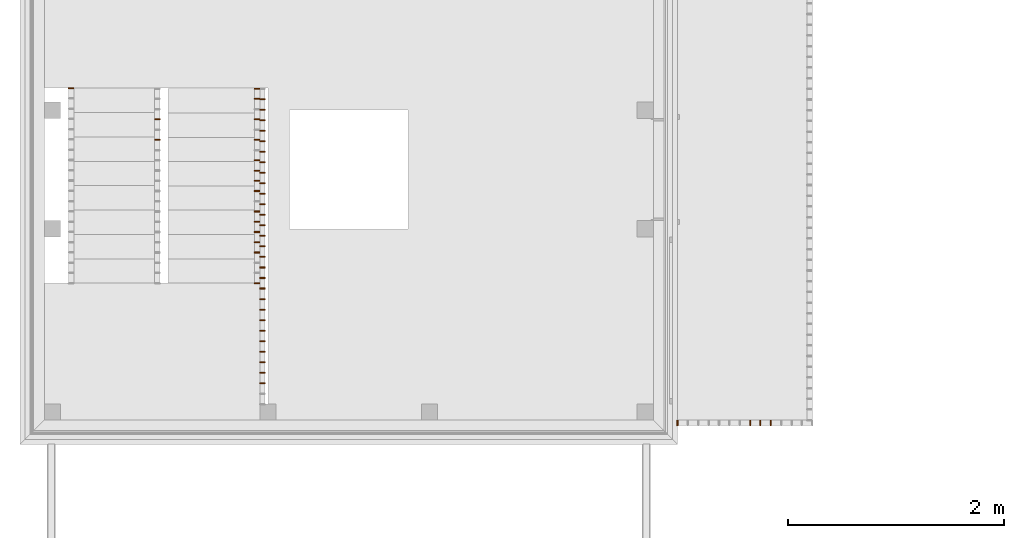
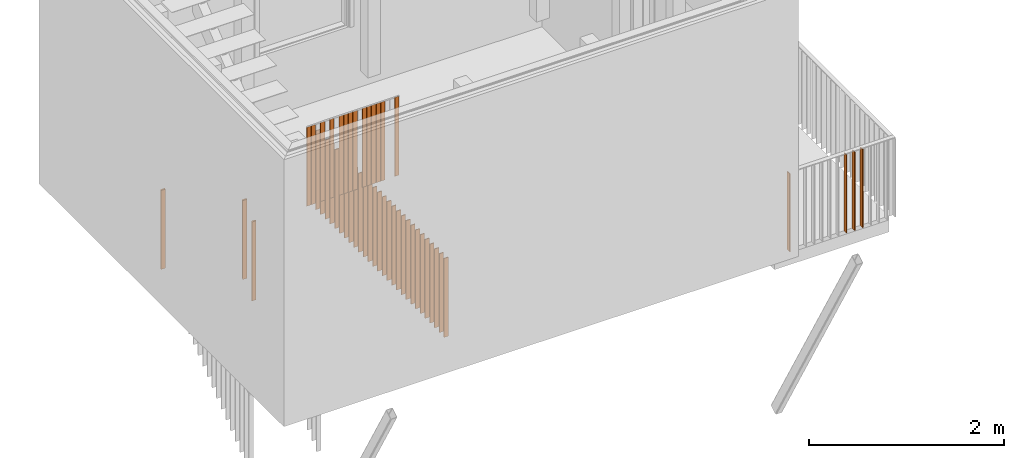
# One storey, part 78 of 100: 49 proxies, 5 elements without a shape of their own.
"""IFC2X3 building model written with IfcOpenShell, lengths in millimetres."""

from ifc_helpers import new_model, entity, si_unit, converted_unit, derived_unit, money_unit, direction, frame, origin_with_axes, place, context, subcontext, project, spatial, faceted_brep, source, transform, mapped, material, type_object, element, aggregate, save


model = new_model("IFC2X3")

# Units and contexts
model_context = context("Model", 3, precision=0.01, world=origin_with_axes(), true_north=direction((0.0, 1.0)))
body_context = subcontext(model_context, "Body", "Model", "MODEL_VIEW")
ifc_project = project(units=[si_unit("LENGTHUNIT", "METRE", prefix="MILLI"), si_unit("AREAUNIT", "SQUARE_METRE"), si_unit("VOLUMEUNIT", "CUBIC_METRE"), converted_unit("PLANEANGLEUNIT", "DEGREE", entity("IfcPlaneAngleMeasure", 0.0174532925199), si_unit("PLANEANGLEUNIT", "RADIAN"), dimensions=[0, 0, 0, 0, 0, 0, 0]), si_unit("SOLIDANGLEUNIT", "STERADIAN"), money_unit("EUR"), converted_unit("TIMEUNIT", "Year", entity("IfcTimeMeasure", 31556926.0), si_unit("TIMEUNIT", "SECOND"), dimensions=[0, 0, 1, 0, 0, 0, 0]), si_unit("MASSUNIT", "GRAM", prefix="KILO"), si_unit("THERMODYNAMICTEMPERATUREUNIT", "DEGREE_CELSIUS"), si_unit("LUMINOUSINTENSITYUNIT", "LUMEN"), si_unit("ENERGYUNIT", "JOULE", prefix="MEGA"), derived_unit("THERMALCONDUCTANCEUNIT", [(si_unit("POWERUNIT", "WATT"), 1), (si_unit("LENGTHUNIT", "METRE"), -1), (si_unit("THERMODYNAMICTEMPERATUREUNIT", "KELVIN"), -1)]), derived_unit("SPECIFICHEATCAPACITYUNIT", [(si_unit("ENERGYUNIT", "JOULE"), 1), (si_unit("MASSUNIT", "GRAM", prefix="KILO"), -1), (si_unit("THERMODYNAMICTEMPERATUREUNIT", "KELVIN"), -1)]), derived_unit("MASSDENSITYUNIT", [(si_unit("MASSUNIT", "GRAM", prefix="KILO"), 1), (si_unit("VOLUMEUNIT", "CUBIC_METRE"), -1)])], contexts=[model_context])

# Site, building, storey
site_placement = place(None, origin_with_axes())
site = spatial("IfcSite", under=ifc_project, at=site_placement, Name="Politse- ja Piirivalveameti ning Päästeameti ühishoone", CompositionType="ELEMENT")
building_placement = place(site_placement, origin_with_axes())
building = spatial("IfcBuilding", under=site, at=building_placement, Name="Politse- ja Piirivalveameti ning Päästeameti ühishoone", CompositionType="ELEMENT")
storey_placement = place(building_placement, frame((0.0, 0.0, 3800.0), z_axis=(0.0, 0.0, 1.0), x_axis=(1.0, 0.0, 0.0)))
storey = spatial("IfcBuildingStorey", under=building, at=storey_placement, Name="Teine korrus", CompositionType="ELEMENT", Elevation=3800.0)

# Railing, proxy
railing_type = type_object("IfcRailingType", Name="Railing Type", PredefinedType="NOTDEFINED")
railing_1_placement = place(storey_placement, frame((-12181.6987719, 2843.99975677, -499.999970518), z_axis=(0.0, 0.0, 1.0), x_axis=(1.0, 0.0, 0.0)))
railing_1 = element("IfcRailing", 1, at=railing_1_placement, inside=storey, type_object=railing_type, Name="PIIRE 2", PredefinedType="NOTDEFINED")
ifc_material = material(Name="Teras - Konstruktsioon")
building_element_proxy_type = type_object("IfcBuildingElementProxyType", Name="IfcBuildingElementProxy", PredefinedType="NOTDEFINED")
shared_shape_1 = source(origin_with_axes(), body_context, "Body", "Brep", [
    faceted_brep([(25.0, 5.0, 4.06243551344), (-25.0, 5.0, 4.06243551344), (-25.0, 5.0, 994.062448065), (25.0, 5.0, 994.062448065), (25.0, -5.0, -4.06243551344), (-25.0, -5.0, -4.06243551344), (-25.0, -5.0, 985.937577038), (25.0, -5.0, 985.937577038)], [[[0, 1, 2, 3]], [[0, 4, 5, 1]], [[1, 5, 6, 2]], [[3, 2, 6, 7]], [[4, 0, 3, 7]], [[5, 4, 7, 6]]]),
])
proxy_1_placement = place(railing_1_placement, frame((-25.0, -1173.45847795, 1080.70174183), z_axis=(0.0, 0.0, 1.0), x_axis=(1.0, 0.0, 0.0)))
proxy_1 = element("IfcBuildingElementProxy", 2, at=proxy_1_placement, type_object=building_element_proxy_type, material=ifc_material, Name="BALUSTER - 001", context=body_context, shape_type="MappedRepresentation", body=[
    mapped(shared_shape_1, transform((0.0, 0.0, 0.0), x_axis=(-1.0, 0.0, 0.0), y_axis=(0.0, -1.0, 0.0), z_axis=(0.0, 0.0, 1.0))),
])

# Railing, proxies
railing_2_placement = place(storey_placement, frame((-7483.77309461, -75.0, -549.999987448), z_axis=(0.0, 0.0, 1.0), x_axis=(0.0, 1.0, 0.0)))
railing_2 = element("IfcRailing", 3, at=railing_2_placement, inside=storey, type_object=railing_type, Name="PIIRE 2", PredefinedType="NOTDEFINED")
shared_shape_2 = source(origin_with_axes(), body_context, "Body", "Brep", [
    faceted_brep([(25.0, 5.0, 0.0), (-25.0, 5.0, 0.0), (-25.0, 5.0, 980.0), (25.0, 5.0, 980.0), (25.0, -5.0, 0.0), (-25.0, -5.0, 0.0), (-25.0, -5.0, 980.0), (25.0, -5.0, 980.0)], [[[0, 1, 2, 3]], [[0, 4, 5, 1]], [[1, 5, 6, 2]], [[3, 2, 6, 7]], [[4, 0, 3, 7]], [[5, 4, 7, 6]]]),
])
proxy_2_placement = place(railing_2_placement, frame((-25.0, 822.925677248, 0.0), z_axis=(0.0, 0.0, 1.0), x_axis=(0.0, -1.0, 0.0)))
proxy_2 = element("IfcBuildingElementProxy", 4, at=proxy_2_placement, type_object=building_element_proxy_type, material=ifc_material, Name="PIIRDE POST - 001", context=body_context, shape_type="MappedRepresentation", body=[
    mapped(shared_shape_2, transform((0.0, 0.0, 0.0), x_axis=(0.0, 1.0, 0.0), y_axis=(-1.0, 0.0, 0.0), z_axis=(0.0, 0.0, 1.0))),
])
shared_shape_3 = source(origin_with_axes(), body_context, "Body", "Brep", [
    faceted_brep([(25.0, 5.0, 0.0), (-25.0, 5.0, 0.0), (-25.0, 5.0, 980.000012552), (25.0, 5.0, 980.000012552), (25.0, -5.0, 0.0), (-25.0, -5.0, 0.0), (-25.0, -5.0, 980.000012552), (25.0, -5.0, 980.000012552)], [[[0, 1, 2, 3]], [[0, 4, 5, 1]], [[1, 5, 6, 2]], [[3, 2, 6, 7]], [[4, 0, 3, 7]], [[5, 4, 7, 6]]]),
])
proxy_3_placement = place(railing_2_placement, frame((-25.0, -42.4589381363, -1.25517001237e-05), z_axis=(0.0, 0.0, 1.0), x_axis=(0.0, -1.0, 0.0)))
proxy_3 = element("IfcBuildingElementProxy", 5, at=proxy_3_placement, type_object=building_element_proxy_type, material=ifc_material, Name="BALUSTER - 001", context=body_context, shape_type="MappedRepresentation", body=[
    mapped(shared_shape_3, transform((0.0, 0.0, 0.0), x_axis=(0.0, 1.0, 0.0), y_axis=(-1.0, 0.0, 0.0), z_axis=(0.0, 0.0, 1.0))),
])
proxy_4_placement = place(railing_2_placement, frame((-25.0, 53.6949080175, -1.25517001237e-05), z_axis=(0.0, 0.0, 1.0), x_axis=(0.0, -1.0, 0.0)))
proxy_4 = element("IfcBuildingElementProxy", 6, at=proxy_4_placement, type_object=building_element_proxy_type, material=ifc_material, Name="BALUSTER - 001", context=body_context, shape_type="MappedRepresentation", body=[
    mapped(shared_shape_3, transform((0.0, 0.0, 0.0), x_axis=(0.0, 1.0, 0.0), y_axis=(-1.0, 0.0, 0.0), z_axis=(0.0, 0.0, 1.0))),
])
proxy_5_placement = place(railing_2_placement, frame((-25.0, 149.848754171, -1.25517001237e-05), z_axis=(0.0, 0.0, 1.0), x_axis=(0.0, -1.0, 0.0)))
proxy_5 = element("IfcBuildingElementProxy", 7, at=proxy_5_placement, type_object=building_element_proxy_type, material=ifc_material, Name="BALUSTER - 001", context=body_context, shape_type="MappedRepresentation", body=[
    mapped(shared_shape_3, transform((0.0, 0.0, 0.0), x_axis=(0.0, 1.0, 0.0), y_axis=(-1.0, 0.0, 0.0), z_axis=(0.0, 0.0, 1.0))),
])
aggregate(railing_2, [proxy_2, proxy_3, proxy_4, proxy_5])

railing_3_placement = place(storey_placement, frame((-12181.9616228, 2843.99975677, -499.999968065), z_axis=(0.0, 0.0, 1.0), x_axis=(1.0, 0.0, 0.0)))
railing_3 = element("IfcRailing", 8, at=railing_3_placement, inside=storey, type_object=railing_type, Name="PIIRE 2", PredefinedType="NOTDEFINED")
shared_shape_4 = source(origin_with_axes(), body_context, "Body", "Brep", [
    faceted_brep([(25.0, 5.0, 0.0), (-25.0, 5.0, 0.0), (-25.0, 5.0, 990.000012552), (25.0, 5.0, 990.000012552), (25.0, -5.0, 0.0), (-25.0, -5.0, 0.0), (-25.0, -5.0, 990.000012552), (25.0, -5.0, 990.000012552)], [[[0, 1, 2, 3]], [[0, 4, 5, 1]], [[1, 5, 6, 2]], [[3, 2, 6, 7]], [[4, 0, 3, 7]], [[5, 4, 7, 6]]]),
])
proxy_6_placement = place(railing_3_placement, frame((25.0, 59.3023924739, -1.25516996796e-05), z_axis=(0.0, 0.0, 1.0), x_axis=(1.0, 0.0, 0.0)))
proxy_6 = element("IfcBuildingElementProxy", 9, at=proxy_6_placement, type_object=building_element_proxy_type, material=ifc_material, Name="BALUSTER - 001", context=body_context, shape_type="MappedRepresentation", body=[
    mapped(shared_shape_4, transform((0.0, 0.0, 0.0), x_axis=(-1.0, 0.0, 0.0), y_axis=(0.0, -1.0, 0.0), z_axis=(0.0, 0.0, 1.0))),
])
proxy_7_placement = place(railing_3_placement, frame((25.0, -38.3226422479, -1.25516996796e-05), z_axis=(0.0, 0.0, 1.0), x_axis=(1.0, 0.0, 0.0)))
proxy_7 = element("IfcBuildingElementProxy", 10, at=proxy_7_placement, type_object=building_element_proxy_type, material=ifc_material, Name="BALUSTER - 001", context=body_context, shape_type="MappedRepresentation", body=[
    mapped(shared_shape_4, transform((0.0, 0.0, 0.0), x_axis=(-1.0, 0.0, 0.0), y_axis=(0.0, -1.0, 0.0), z_axis=(0.0, 0.0, 1.0))),
])
proxy_8_placement = place(railing_3_placement, frame((25.0, -135.94767697, -1.25516996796e-05), z_axis=(0.0, 0.0, 1.0), x_axis=(1.0, 0.0, 0.0)))
proxy_8 = element("IfcBuildingElementProxy", 11, at=proxy_8_placement, type_object=building_element_proxy_type, material=ifc_material, Name="BALUSTER - 001", context=body_context, shape_type="MappedRepresentation", body=[
    mapped(shared_shape_4, transform((0.0, 0.0, 0.0), x_axis=(-1.0, 0.0, 0.0), y_axis=(0.0, -1.0, 0.0), z_axis=(0.0, 0.0, 1.0))),
])
proxy_9_placement = place(railing_3_placement, frame((25.0, -233.572711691, -1.25516996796e-05), z_axis=(0.0, 0.0, 1.0), x_axis=(1.0, 0.0, 0.0)))
proxy_9 = element("IfcBuildingElementProxy", 12, at=proxy_9_placement, type_object=building_element_proxy_type, material=ifc_material, Name="BALUSTER - 001", context=body_context, shape_type="MappedRepresentation", body=[
    mapped(shared_shape_4, transform((0.0, 0.0, 0.0), x_axis=(-1.0, 0.0, 0.0), y_axis=(0.0, -1.0, 0.0), z_axis=(0.0, 0.0, 1.0))),
])
proxy_10_placement = place(railing_3_placement, frame((25.0, -331.197746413, -1.25516996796e-05), z_axis=(0.0, 0.0, 1.0), x_axis=(1.0, 0.0, 0.0)))
proxy_10 = element("IfcBuildingElementProxy", 13, at=proxy_10_placement, type_object=building_element_proxy_type, material=ifc_material, Name="BALUSTER - 001", context=body_context, shape_type="MappedRepresentation", body=[
    mapped(shared_shape_4, transform((0.0, 0.0, 0.0), x_axis=(-1.0, 0.0, 0.0), y_axis=(0.0, -1.0, 0.0), z_axis=(0.0, 0.0, 1.0))),
])
proxy_11_placement = place(railing_3_placement, frame((25.0, -428.822781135, -1.25516996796e-05), z_axis=(0.0, 0.0, 1.0), x_axis=(1.0, 0.0, 0.0)))
proxy_11 = element("IfcBuildingElementProxy", 14, at=proxy_11_placement, type_object=building_element_proxy_type, material=ifc_material, Name="BALUSTER - 001", context=body_context, shape_type="MappedRepresentation", body=[
    mapped(shared_shape_4, transform((0.0, 0.0, 0.0), x_axis=(-1.0, 0.0, 0.0), y_axis=(0.0, -1.0, 0.0), z_axis=(0.0, 0.0, 1.0))),
])
proxy_12_placement = place(railing_3_placement, frame((25.0, -526.447815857, -1.25516996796e-05), z_axis=(0.0, 0.0, 1.0), x_axis=(1.0, 0.0, 0.0)))
proxy_12 = element("IfcBuildingElementProxy", 15, at=proxy_12_placement, type_object=building_element_proxy_type, material=ifc_material, Name="BALUSTER - 001", context=body_context, shape_type="MappedRepresentation", body=[
    mapped(shared_shape_4, transform((0.0, 0.0, 0.0), x_axis=(-1.0, 0.0, 0.0), y_axis=(0.0, -1.0, 0.0), z_axis=(0.0, 0.0, 1.0))),
])
proxy_13_placement = place(railing_3_placement, frame((25.0, -624.072850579, -1.25516996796e-05), z_axis=(0.0, 0.0, 1.0), x_axis=(1.0, 0.0, 0.0)))
proxy_13 = element("IfcBuildingElementProxy", 16, at=proxy_13_placement, type_object=building_element_proxy_type, material=ifc_material, Name="BALUSTER - 001", context=body_context, shape_type="MappedRepresentation", body=[
    mapped(shared_shape_4, transform((0.0, 0.0, 0.0), x_axis=(-1.0, 0.0, 0.0), y_axis=(0.0, -1.0, 0.0), z_axis=(0.0, 0.0, 1.0))),
])
proxy_14_placement = place(railing_3_placement, frame((25.0, -721.6978853, -1.25516996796e-05), z_axis=(0.0, 0.0, 1.0), x_axis=(1.0, 0.0, 0.0)))
proxy_14 = element("IfcBuildingElementProxy", 17, at=proxy_14_placement, type_object=building_element_proxy_type, material=ifc_material, Name="BALUSTER - 001", context=body_context, shape_type="MappedRepresentation", body=[
    mapped(shared_shape_4, transform((0.0, 0.0, 0.0), x_axis=(-1.0, 0.0, 0.0), y_axis=(0.0, -1.0, 0.0), z_axis=(0.0, 0.0, 1.0))),
])
proxy_15_placement = place(railing_3_placement, frame((25.0, -819.322920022, -1.25516996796e-05), z_axis=(0.0, 0.0, 1.0), x_axis=(1.0, 0.0, 0.0)))
proxy_15 = element("IfcBuildingElementProxy", 18, at=proxy_15_placement, type_object=building_element_proxy_type, material=ifc_material, Name="BALUSTER - 001", context=body_context, shape_type="MappedRepresentation", body=[
    mapped(shared_shape_4, transform((0.0, 0.0, 0.0), x_axis=(-1.0, 0.0, 0.0), y_axis=(0.0, -1.0, 0.0), z_axis=(0.0, 0.0, 1.0))),
])
proxy_16_placement = place(railing_3_placement, frame((25.0, -916.947954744, -1.25516996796e-05), z_axis=(0.0, 0.0, 1.0), x_axis=(1.0, 0.0, 0.0)))
proxy_16 = element("IfcBuildingElementProxy", 19, at=proxy_16_placement, type_object=building_element_proxy_type, material=ifc_material, Name="BALUSTER - 001", context=body_context, shape_type="MappedRepresentation", body=[
    mapped(shared_shape_4, transform((0.0, 0.0, 0.0), x_axis=(-1.0, 0.0, 0.0), y_axis=(0.0, -1.0, 0.0), z_axis=(0.0, 0.0, 1.0))),
])
proxy_17_placement = place(railing_3_placement, frame((25.0, -1014.57298947, -1.25516996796e-05), z_axis=(0.0, 0.0, 1.0), x_axis=(1.0, 0.0, 0.0)))
proxy_17 = element("IfcBuildingElementProxy", 20, at=proxy_17_placement, type_object=building_element_proxy_type, material=ifc_material, Name="BALUSTER - 001", context=body_context, shape_type="MappedRepresentation", body=[
    mapped(shared_shape_4, transform((0.0, 0.0, 0.0), x_axis=(-1.0, 0.0, 0.0), y_axis=(0.0, -1.0, 0.0), z_axis=(0.0, 0.0, 1.0))),
])
proxy_18_placement = place(railing_3_placement, frame((25.0, -1112.19802419, -1.25516996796e-05), z_axis=(0.0, 0.0, 1.0), x_axis=(1.0, 0.0, 0.0)))
proxy_18 = element("IfcBuildingElementProxy", 21, at=proxy_18_placement, type_object=building_element_proxy_type, material=ifc_material, Name="BALUSTER - 001", context=body_context, shape_type="MappedRepresentation", body=[
    mapped(shared_shape_4, transform((0.0, 0.0, 0.0), x_axis=(-1.0, 0.0, 0.0), y_axis=(0.0, -1.0, 0.0), z_axis=(0.0, 0.0, 1.0))),
])
proxy_19_placement = place(railing_3_placement, frame((25.0, -1209.82305891, -1.25516996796e-05), z_axis=(0.0, 0.0, 1.0), x_axis=(1.0, 0.0, 0.0)))
proxy_19 = element("IfcBuildingElementProxy", 22, at=proxy_19_placement, type_object=building_element_proxy_type, material=ifc_material, Name="BALUSTER - 001", context=body_context, shape_type="MappedRepresentation", body=[
    mapped(shared_shape_4, transform((0.0, 0.0, 0.0), x_axis=(-1.0, 0.0, 0.0), y_axis=(0.0, -1.0, 0.0), z_axis=(0.0, 0.0, 1.0))),
])
proxy_20_placement = place(railing_3_placement, frame((25.0, -1307.44809363, -1.25516996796e-05), z_axis=(0.0, 0.0, 1.0), x_axis=(1.0, 0.0, 0.0)))
proxy_20 = element("IfcBuildingElementProxy", 23, at=proxy_20_placement, type_object=building_element_proxy_type, material=ifc_material, Name="BALUSTER - 001", context=body_context, shape_type="MappedRepresentation", body=[
    mapped(shared_shape_4, transform((0.0, 0.0, 0.0), x_axis=(-1.0, 0.0, 0.0), y_axis=(0.0, -1.0, 0.0), z_axis=(0.0, 0.0, 1.0))),
])
proxy_21_placement = place(railing_3_placement, frame((25.0, -1405.07312835, -1.25516996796e-05), z_axis=(0.0, 0.0, 1.0), x_axis=(1.0, 0.0, 0.0)))
proxy_21 = element("IfcBuildingElementProxy", 24, at=proxy_21_placement, type_object=building_element_proxy_type, material=ifc_material, Name="BALUSTER - 001", context=body_context, shape_type="MappedRepresentation", body=[
    mapped(shared_shape_4, transform((0.0, 0.0, 0.0), x_axis=(-1.0, 0.0, 0.0), y_axis=(0.0, -1.0, 0.0), z_axis=(0.0, 0.0, 1.0))),
])
proxy_22_placement = place(railing_3_placement, frame((25.0, -1502.69816307, -1.25516996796e-05), z_axis=(0.0, 0.0, 1.0), x_axis=(1.0, 0.0, 0.0)))
proxy_22 = element("IfcBuildingElementProxy", 25, at=proxy_22_placement, type_object=building_element_proxy_type, material=ifc_material, Name="BALUSTER - 001", context=body_context, shape_type="MappedRepresentation", body=[
    mapped(shared_shape_4, transform((0.0, 0.0, 0.0), x_axis=(-1.0, 0.0, 0.0), y_axis=(0.0, -1.0, 0.0), z_axis=(0.0, 0.0, 1.0))),
])
proxy_23_placement = place(railing_3_placement, frame((25.0, -1600.3231978, -1.25516996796e-05), z_axis=(0.0, 0.0, 1.0), x_axis=(1.0, 0.0, 0.0)))
proxy_23 = element("IfcBuildingElementProxy", 26, at=proxy_23_placement, type_object=building_element_proxy_type, material=ifc_material, Name="BALUSTER - 001", context=body_context, shape_type="MappedRepresentation", body=[
    mapped(shared_shape_4, transform((0.0, 0.0, 0.0), x_axis=(-1.0, 0.0, 0.0), y_axis=(0.0, -1.0, 0.0), z_axis=(0.0, 0.0, 1.0))),
])
proxy_24_placement = place(railing_3_placement, frame((25.0, -1697.94823252, -1.25516996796e-05), z_axis=(0.0, 0.0, 1.0), x_axis=(1.0, 0.0, 0.0)))
proxy_24 = element("IfcBuildingElementProxy", 27, at=proxy_24_placement, type_object=building_element_proxy_type, material=ifc_material, Name="BALUSTER - 001", context=body_context, shape_type="MappedRepresentation", body=[
    mapped(shared_shape_4, transform((0.0, 0.0, 0.0), x_axis=(-1.0, 0.0, 0.0), y_axis=(0.0, -1.0, 0.0), z_axis=(0.0, 0.0, 1.0))),
])
proxy_25_placement = place(railing_3_placement, frame((25.0, -1795.57326724, -1.25516996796e-05), z_axis=(0.0, 0.0, 1.0), x_axis=(1.0, 0.0, 0.0)))
proxy_25 = element("IfcBuildingElementProxy", 28, at=proxy_25_placement, type_object=building_element_proxy_type, material=ifc_material, Name="BALUSTER - 001", context=body_context, shape_type="MappedRepresentation", body=[
    mapped(shared_shape_4, transform((0.0, 0.0, 0.0), x_axis=(-1.0, 0.0, 0.0), y_axis=(0.0, -1.0, 0.0), z_axis=(0.0, 0.0, 1.0))),
])
proxy_26_placement = place(railing_3_placement, frame((25.0, -1893.19830196, -1.25516996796e-05), z_axis=(0.0, 0.0, 1.0), x_axis=(1.0, 0.0, 0.0)))
proxy_26 = element("IfcBuildingElementProxy", 29, at=proxy_26_placement, type_object=building_element_proxy_type, material=ifc_material, Name="BALUSTER - 001", context=body_context, shape_type="MappedRepresentation", body=[
    mapped(shared_shape_4, transform((0.0, 0.0, 0.0), x_axis=(-1.0, 0.0, 0.0), y_axis=(0.0, -1.0, 0.0), z_axis=(0.0, 0.0, 1.0))),
])
proxy_27_placement = place(railing_3_placement, frame((25.0, -1990.82333668, -1.25516996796e-05), z_axis=(0.0, 0.0, 1.0), x_axis=(1.0, 0.0, 0.0)))
proxy_27 = element("IfcBuildingElementProxy", 30, at=proxy_27_placement, type_object=building_element_proxy_type, material=ifc_material, Name="BALUSTER - 001", context=body_context, shape_type="MappedRepresentation", body=[
    mapped(shared_shape_4, transform((0.0, 0.0, 0.0), x_axis=(-1.0, 0.0, 0.0), y_axis=(0.0, -1.0, 0.0), z_axis=(0.0, 0.0, 1.0))),
])
proxy_28_placement = place(railing_3_placement, frame((25.0, -2088.44837141, -1.25516996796e-05), z_axis=(0.0, 0.0, 1.0), x_axis=(1.0, 0.0, 0.0)))
proxy_28 = element("IfcBuildingElementProxy", 31, at=proxy_28_placement, type_object=building_element_proxy_type, material=ifc_material, Name="BALUSTER - 001", context=body_context, shape_type="MappedRepresentation", body=[
    mapped(shared_shape_4, transform((0.0, 0.0, 0.0), x_axis=(-1.0, 0.0, 0.0), y_axis=(0.0, -1.0, 0.0), z_axis=(0.0, 0.0, 1.0))),
])
proxy_29_placement = place(railing_3_placement, frame((25.0, -2186.07340613, -1.25516996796e-05), z_axis=(0.0, 0.0, 1.0), x_axis=(1.0, 0.0, 0.0)))
proxy_29 = element("IfcBuildingElementProxy", 32, at=proxy_29_placement, type_object=building_element_proxy_type, material=ifc_material, Name="BALUSTER - 001", context=body_context, shape_type="MappedRepresentation", body=[
    mapped(shared_shape_4, transform((0.0, 0.0, 0.0), x_axis=(-1.0, 0.0, 0.0), y_axis=(0.0, -1.0, 0.0), z_axis=(0.0, 0.0, 1.0))),
])
proxy_30_placement = place(railing_3_placement, frame((25.0, -2283.69844085, -1.25516996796e-05), z_axis=(0.0, 0.0, 1.0), x_axis=(1.0, 0.0, 0.0)))
proxy_30 = element("IfcBuildingElementProxy", 33, at=proxy_30_placement, type_object=building_element_proxy_type, material=ifc_material, Name="BALUSTER - 001", context=body_context, shape_type="MappedRepresentation", body=[
    mapped(shared_shape_4, transform((0.0, 0.0, 0.0), x_axis=(-1.0, 0.0, 0.0), y_axis=(0.0, -1.0, 0.0), z_axis=(0.0, 0.0, 1.0))),
])
shared_shape_5 = source(origin_with_axes(), body_context, "Body", "Brep", [
    faceted_brep([(25.0, 5.0, 0.0), (-25.0, 5.0, 0.0), (-25.0, 5.0, 990.000012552), (25.0, 5.0, 990.000012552), (25.0, -5.0, 0.0), (-25.0, -5.0, 0.0), (-25.0, -5.0, 990.000012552), (25.0, -5.0, 990.000012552)], [[[0, 1, 2, 3]], [[0, 4, 5, 1]], [[1, 5, 6, 2]], [[3, 2, 6, 7]], [[4, 0, 3, 7]], [[5, 4, 7, 6]]]),
])
proxy_31_placement = place(railing_3_placement, frame((25.0, -2381.32347557, -1.25516996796e-05), z_axis=(0.0, 0.0, 1.0), x_axis=(1.0, 0.0, 0.0)))
proxy_31 = element("IfcBuildingElementProxy", 34, at=proxy_31_placement, type_object=building_element_proxy_type, material=ifc_material, Name="BALUSTER - 001", context=body_context, shape_type="MappedRepresentation", body=[
    mapped(shared_shape_5, transform((0.0, 0.0, 0.0), x_axis=(-1.0, 0.0, 0.0), y_axis=(0.0, -1.0, 0.0), z_axis=(0.0, 0.0, 1.0))),
])
proxy_32_placement = place(railing_3_placement, frame((25.0, -2478.94851029, -1.25516996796e-05), z_axis=(0.0, 0.0, 1.0), x_axis=(1.0, 0.0, 0.0)))
proxy_32 = element("IfcBuildingElementProxy", 35, at=proxy_32_placement, type_object=building_element_proxy_type, material=ifc_material, Name="BALUSTER - 001", context=body_context, shape_type="MappedRepresentation", body=[
    mapped(shared_shape_5, transform((0.0, 0.0, 0.0), x_axis=(-1.0, 0.0, 0.0), y_axis=(0.0, -1.0, 0.0), z_axis=(0.0, 0.0, 1.0))),
])
proxy_33_placement = place(railing_3_placement, frame((25.0, -2576.57354501, -1.25516996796e-05), z_axis=(0.0, 0.0, 1.0), x_axis=(1.0, 0.0, 0.0)))
proxy_33 = element("IfcBuildingElementProxy", 36, at=proxy_33_placement, type_object=building_element_proxy_type, material=ifc_material, Name="BALUSTER - 001", context=body_context, shape_type="MappedRepresentation", body=[
    mapped(shared_shape_5, transform((0.0, 0.0, 0.0), x_axis=(-1.0, 0.0, 0.0), y_axis=(0.0, -1.0, 0.0), z_axis=(0.0, 0.0, 1.0))),
])
aggregate(railing_3, [proxy_6, proxy_7, proxy_8, proxy_9, proxy_10, proxy_11, proxy_12, proxy_13, proxy_14, proxy_15, proxy_16, proxy_17, proxy_18, proxy_19, proxy_20, proxy_21, proxy_22, proxy_23, proxy_24, proxy_25, proxy_26, proxy_27, proxy_28, proxy_29, proxy_30, proxy_31, proxy_32, proxy_33])

railing_4_placement = place(storey_placement, frame((-13107.2062017, 2701.0725728, -2150.0), z_axis=(0.0, 0.0, 1.0), x_axis=(1.0, 0.0, 0.0)))
railing_4 = element("IfcRailing", 37, at=railing_4_placement, inside=storey, type_object=railing_type, Name="PIIRE 2", PredefinedType="NOTDEFINED")
shared_shape_6 = source(origin_with_axes(), body_context, "Body", "Brep", [
    faceted_brep([(25.0, 5.0, -4.06182724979), (-25.0, 5.0, -4.06182724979), (-25.0, 5.0, 985.938185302), (25.0, 5.0, 985.938185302), (25.0, -5.0, 4.06182724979), (-25.0, -5.0, 4.06182724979), (-25.0, -5.0, 994.061839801), (25.0, -5.0, 994.061839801)], [[[0, 1, 2, 3]], [[0, 4, 5, 1]], [[1, 5, 6, 2]], [[3, 2, 6, 7]], [[4, 0, 3, 7]], [[5, 4, 7, 6]]]),
])
proxy_34_placement = place(railing_4_placement, frame((-25.0, 14.7871610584, 1235.08770675), z_axis=(0.0, 0.0, 1.0), x_axis=(1.0, 0.0, 0.0)))
proxy_34 = element("IfcBuildingElementProxy", 38, at=proxy_34_placement, type_object=building_element_proxy_type, material=ifc_material, Name="BALUSTER - 001", context=body_context, shape_type="MappedRepresentation", body=[
    mapped(shared_shape_6, transform((0.0, 0.0, 0.0), x_axis=(-1.0, 0.0, 0.0), y_axis=(0.0, -1.0, 0.0), z_axis=(0.0, 0.0, 1.0))),
])
proxy_35_placement = place(railing_4_placement, frame((-25.0, -175.257805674, 1080.70174183), z_axis=(0.0, 0.0, 1.0), x_axis=(1.0, 0.0, 0.0)))
proxy_35 = element("IfcBuildingElementProxy", 39, at=proxy_35_placement, type_object=building_element_proxy_type, material=ifc_material, Name="BALUSTER - 001", context=body_context, shape_type="MappedRepresentation", body=[
    mapped(shared_shape_6, transform((0.0, 0.0, 0.0), x_axis=(-1.0, 0.0, 0.0), y_axis=(0.0, -1.0, 0.0), z_axis=(0.0, 0.0, 1.0))),
])
aggregate(railing_4, [proxy_34, proxy_35])

# Railing, proxy
railing_5_placement = place(storey_placement, frame((-13957.0653854, 2701.0725728, -2150.0), z_axis=(0.0, 0.0, 1.0), x_axis=(1.0, 0.0, 0.0)))
railing_5 = element("IfcRailing", 40, at=railing_5_placement, inside=storey, type_object=railing_type, Name="PIIRE 2", PredefinedType="NOTDEFINED")
shared_shape_7 = source(origin_with_axes(), body_context, "Body", "Brep", [
    faceted_brep([(25.0, 5.0, -4.0522425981), (-25.0, 5.0, -4.0522425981), (-25.0, 5.0, 985.947757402), (25.0, 5.0, 985.947757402), (25.0, -5.0, 4.0522425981), (-25.0, -5.0, 4.0522425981), (-25.0, -5.0, 994.052242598), (25.0, -5.0, 994.052242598)], [[[0, 1, 2, 3]], [[0, 4, 5, 1]], [[1, 5, 6, 2]], [[3, 2, 6, 7]], [[4, 0, 3, 7]], [[5, 4, 7, 6]]]),
])
proxy_36_placement = place(railing_5_placement, frame((25.0, 304.124935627, 1466.66666667), z_axis=(0.0, 0.0, 1.0), x_axis=(1.0, 0.0, 0.0)))
proxy_36 = element("IfcBuildingElementProxy", 41, at=proxy_36_placement, type_object=building_element_proxy_type, material=ifc_material, Name="PIIRDE POST - 001", context=body_context, shape_type="MappedRepresentation", body=[
    mapped(shared_shape_7, transform((0.0, 0.0, 0.0), x_axis=(-1.0, 0.0, 0.0), y_axis=(0.0, -1.0, 0.0), z_axis=(0.0, 0.0, 1.0))),
])
aggregate(railing_5, [proxy_36])

# Proxy
shared_shape_8 = source(origin_with_axes(), body_context, "Body", "Brep", [
    faceted_brep([(25.0, 5.0, 4.06243551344), (-25.0, 5.0, 4.06243551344), (-25.0, 5.0, 994.062435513), (25.0, 5.0, 994.062435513), (25.0, -5.0, -4.06243551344), (-25.0, -5.0, -4.06243551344), (-25.0, -5.0, 985.937564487), (25.0, -5.0, 985.937564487)], [[[0, 1, 2, 3]], [[0, 4, 5, 1]], [[1, 5, 6, 2]], [[3, 2, 6, 7]], [[4, 0, 3, 7]], [[5, 4, 7, 6]]]),
])
proxy_37_placement = place(railing_1_placement, frame((-25.0, 156.657102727, 0.0), z_axis=(0.0, 0.0, 1.0), x_axis=(1.0, 0.0, 0.0)))
proxy_37 = element("IfcBuildingElementProxy", 42, at=proxy_37_placement, type_object=building_element_proxy_type, material=ifc_material, Name="PIIRDE POST - 001", context=body_context, shape_type="MappedRepresentation", body=[
    mapped(shared_shape_8, transform((0.0, 0.0, 0.0), x_axis=(-1.0, 0.0, 0.0), y_axis=(0.0, -1.0, 0.0), z_axis=(0.0, 0.0, 1.0))),
])

proxy_38_placement = place(railing_1_placement, frame((-25.0, -1648.49975677, 1466.66666667), z_axis=(0.0, 0.0, 1.0), x_axis=(1.0, 0.0, 0.0)))
proxy_38 = element("IfcBuildingElementProxy", 43, at=proxy_38_placement, type_object=building_element_proxy_type, material=ifc_material, Name="PIIRDE POST - 001", context=body_context, shape_type="MappedRepresentation", body=[
    mapped(shared_shape_8, transform((0.0, 0.0, 0.0), x_axis=(-1.0, 0.0, 0.0), y_axis=(0.0, -1.0, 0.0), z_axis=(0.0, 0.0, 1.0))),
])

shared_shape_9 = source(origin_with_axes(), body_context, "Body", "Brep", [
    faceted_brep([(25.0, 5.0, 4.06243551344), (-25.0, 5.0, 4.06243551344), (-25.0, 5.0, 994.062448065), (25.0, 5.0, 994.062448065), (25.0, -5.0, -4.06243551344), (-25.0, -5.0, -4.06243551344), (-25.0, -5.0, 985.937577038), (25.0, -5.0, 985.937577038)], [[[0, 1, 2, 3]], [[0, 4, 5, 1]], [[1, 5, 6, 2]], [[3, 2, 6, 7]], [[4, 0, 3, 7]], [[5, 4, 7, 6]]]),
])
proxy_39_placement = place(railing_1_placement, frame((-25.0, 61.6488469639, 77.1929699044), z_axis=(0.0, 0.0, 1.0), x_axis=(1.0, 0.0, 0.0)))
proxy_39 = element("IfcBuildingElementProxy", 44, at=proxy_39_placement, type_object=building_element_proxy_type, material=ifc_material, Name="BALUSTER - 001", context=body_context, shape_type="MappedRepresentation", body=[
    mapped(shared_shape_9, transform((0.0, 0.0, 0.0), x_axis=(-1.0, 0.0, 0.0), y_axis=(0.0, -1.0, 0.0), z_axis=(0.0, 0.0, 1.0))),
])

proxy_40_placement = place(railing_1_placement, frame((-25.0, -318.384176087, 385.964899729), z_axis=(0.0, 0.0, 1.0), x_axis=(1.0, 0.0, 0.0)))
proxy_40 = element("IfcBuildingElementProxy", 45, at=proxy_40_placement, type_object=building_element_proxy_type, material=ifc_material, Name="BALUSTER - 001", context=body_context, shape_type="MappedRepresentation", body=[
    mapped(shared_shape_9, transform((0.0, 0.0, 0.0), x_axis=(-1.0, 0.0, 0.0), y_axis=(0.0, -1.0, 0.0), z_axis=(0.0, 0.0, 1.0))),
])

proxy_41_placement = place(railing_1_placement, frame((-25.0, -603.408943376, 617.543847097), z_axis=(0.0, 0.0, 1.0), x_axis=(1.0, 0.0, 0.0)))
proxy_41 = element("IfcBuildingElementProxy", 46, at=proxy_41_placement, type_object=building_element_proxy_type, material=ifc_material, Name="BALUSTER - 001", context=body_context, shape_type="MappedRepresentation", body=[
    mapped(shared_shape_9, transform((0.0, 0.0, 0.0), x_axis=(-1.0, 0.0, 0.0), y_axis=(0.0, -1.0, 0.0), z_axis=(0.0, 0.0, 1.0))),
])

shared_shape_10 = source(origin_with_axes(), body_context, "Body", "Brep", [
    faceted_brep([(25.0, 5.0, 4.06243551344), (-25.0, 5.0, 4.06243551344), (-25.0, 5.0, 994.062448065), (25.0, 5.0, 994.062448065), (25.0, -5.0, -4.06243551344), (-25.0, -5.0, -4.06243551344), (-25.0, -5.0, 985.937577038), (25.0, -5.0, 985.937577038)], [[[0, 1, 2, 3]], [[0, 4, 5, 1]], [[1, 5, 6, 2]], [[3, 2, 6, 7]], [[4, 0, 3, 7]], [[5, 4, 7, 6]]]),
])
proxy_42_placement = place(railing_1_placement, frame((-25.0, -128.367664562, 231.578934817), z_axis=(0.0, 0.0, 1.0), x_axis=(1.0, 0.0, 0.0)))
proxy_42 = element("IfcBuildingElementProxy", 47, at=proxy_42_placement, type_object=building_element_proxy_type, material=ifc_material, Name="BALUSTER - 001", context=body_context, shape_type="MappedRepresentation", body=[
    mapped(shared_shape_10, transform((0.0, 0.0, 0.0), x_axis=(-1.0, 0.0, 0.0), y_axis=(0.0, -1.0, 0.0), z_axis=(0.0, 0.0, 1.0))),
])

proxy_43_placement = place(railing_1_placement, frame((-25.0, -698.417199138, 694.736829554), z_axis=(0.0, 0.0, 1.0), x_axis=(1.0, 0.0, 0.0)))
proxy_43 = element("IfcBuildingElementProxy", 48, at=proxy_43_placement, type_object=building_element_proxy_type, material=ifc_material, Name="BALUSTER - 001", context=body_context, shape_type="MappedRepresentation", body=[
    mapped(shared_shape_10, transform((0.0, 0.0, 0.0), x_axis=(-1.0, 0.0, 0.0), y_axis=(0.0, -1.0, 0.0), z_axis=(0.0, 0.0, 1.0))),
])

shared_shape_11 = source(origin_with_axes(), body_context, "Body", "Brep", [
    faceted_brep([(25.0, 5.0, 4.06243551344), (-25.0, 5.0, 4.06243551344), (-25.0, 5.0, 994.062448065), (25.0, 5.0, 994.062448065), (25.0, -5.0, -4.06243551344), (-25.0, -5.0, -4.06243551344), (-25.0, -5.0, 985.937577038), (25.0, -5.0, 985.937577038)], [[[0, 1, 2, 3]], [[0, 4, 5, 1]], [[1, 5, 6, 2]], [[3, 2, 6, 7]], [[4, 0, 3, 7]], [[5, 4, 7, 6]]]),
])
proxy_44_placement = place(railing_1_placement, frame((-25.0, -508.400687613, 540.350864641), z_axis=(0.0, 0.0, 1.0), x_axis=(1.0, 0.0, 0.0)))
proxy_44 = element("IfcBuildingElementProxy", 49, at=proxy_44_placement, type_object=building_element_proxy_type, material=ifc_material, Name="BALUSTER - 001", context=body_context, shape_type="MappedRepresentation", body=[
    mapped(shared_shape_11, transform((0.0, 0.0, 0.0), x_axis=(-1.0, 0.0, 0.0), y_axis=(0.0, -1.0, 0.0), z_axis=(0.0, 0.0, 1.0))),
])

proxy_45_placement = place(railing_1_placement, frame((-25.0, -793.425454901, 771.92981201), z_axis=(0.0, 0.0, 1.0), x_axis=(1.0, 0.0, 0.0)))
proxy_45 = element("IfcBuildingElementProxy", 50, at=proxy_45_placement, type_object=building_element_proxy_type, material=ifc_material, Name="BALUSTER - 001", context=body_context, shape_type="MappedRepresentation", body=[
    mapped(shared_shape_11, transform((0.0, 0.0, 0.0), x_axis=(-1.0, 0.0, 0.0), y_axis=(0.0, -1.0, 0.0), z_axis=(0.0, 0.0, 1.0))),
])

shared_shape_12 = source(origin_with_axes(), body_context, "Body", "Brep", [
    faceted_brep([(25.0, 5.0, 4.06243551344), (-25.0, 5.0, 4.06243551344), (-25.0, 5.0, 994.062448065), (25.0, 5.0, 994.062448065), (25.0, -5.0, -4.06243551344), (-25.0, -5.0, -4.06243551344), (-25.0, -5.0, 985.937577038), (25.0, -5.0, 985.937577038)], [[[0, 1, 2, 3]], [[0, 4, 5, 1]], [[1, 5, 6, 2]], [[3, 2, 6, 7]], [[4, 0, 3, 7]], [[5, 4, 7, 6]]]),
])
proxy_46_placement = place(railing_1_placement, frame((-25.0, -983.441966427, 926.315776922), z_axis=(0.0, 0.0, 1.0), x_axis=(1.0, 0.0, 0.0)))
proxy_46 = element("IfcBuildingElementProxy", 51, at=proxy_46_placement, type_object=building_element_proxy_type, material=ifc_material, Name="BALUSTER - 001", context=body_context, shape_type="MappedRepresentation", body=[
    mapped(shared_shape_12, transform((0.0, 0.0, 0.0), x_axis=(-1.0, 0.0, 0.0), y_axis=(0.0, -1.0, 0.0), z_axis=(0.0, 0.0, 1.0))),
])

proxy_47_placement = place(railing_1_placement, frame((-25.0, -1268.46673372, 1157.89472429), z_axis=(0.0, 0.0, 1.0), x_axis=(1.0, 0.0, 0.0)))
proxy_47 = element("IfcBuildingElementProxy", 52, at=proxy_47_placement, type_object=building_element_proxy_type, material=ifc_material, Name="BALUSTER - 001", context=body_context, shape_type="MappedRepresentation", body=[
    mapped(shared_shape_12, transform((0.0, 0.0, 0.0), x_axis=(-1.0, 0.0, 0.0), y_axis=(0.0, -1.0, 0.0), z_axis=(0.0, 0.0, 1.0))),
])

shared_shape_13 = source(origin_with_axes(), body_context, "Body", "Brep", [
    faceted_brep([(25.0, 5.0, 4.06243551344), (-25.0, 5.0, 4.06243551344), (-25.0, 5.0, 994.062448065), (25.0, 5.0, 994.062448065), (25.0, -5.0, -4.06243551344), (-25.0, -5.0, -4.06243551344), (-25.0, -5.0, 985.937577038), (25.0, -5.0, 985.937577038)], [[[0, 1, 2, 3]], [[0, 4, 5, 1]], [[1, 5, 6, 2]], [[3, 2, 6, 7]], [[4, 0, 3, 7]], [[5, 4, 7, 6]]]),
])
proxy_48_placement = place(railing_1_placement, frame((-25.0, -1078.45022219, 1003.50875938), z_axis=(0.0, 0.0, 1.0), x_axis=(1.0, 0.0, 0.0)))
proxy_48 = element("IfcBuildingElementProxy", 53, at=proxy_48_placement, type_object=building_element_proxy_type, material=ifc_material, Name="BALUSTER - 001", context=body_context, shape_type="MappedRepresentation", body=[
    mapped(shared_shape_13, transform((0.0, 0.0, 0.0), x_axis=(-1.0, 0.0, 0.0), y_axis=(0.0, -1.0, 0.0), z_axis=(0.0, 0.0, 1.0))),
])

proxy_49_placement = place(railing_1_placement, frame((-25.0, -1363.47498948, 1235.08770675), z_axis=(0.0, 0.0, 1.0), x_axis=(1.0, 0.0, 0.0)))
proxy_49 = element("IfcBuildingElementProxy", 54, at=proxy_49_placement, type_object=building_element_proxy_type, material=ifc_material, Name="BALUSTER - 001", context=body_context, shape_type="MappedRepresentation", body=[
    mapped(shared_shape_13, transform((0.0, 0.0, 0.0), x_axis=(-1.0, 0.0, 0.0), y_axis=(0.0, -1.0, 0.0), z_axis=(0.0, 0.0, 1.0))),
])

aggregate(railing_1, [proxy_37, proxy_38, proxy_39, proxy_42, proxy_40, proxy_44, proxy_41, proxy_43, proxy_45, proxy_46, proxy_48, proxy_1, proxy_47, proxy_49])

save(model, "model.ifc")
